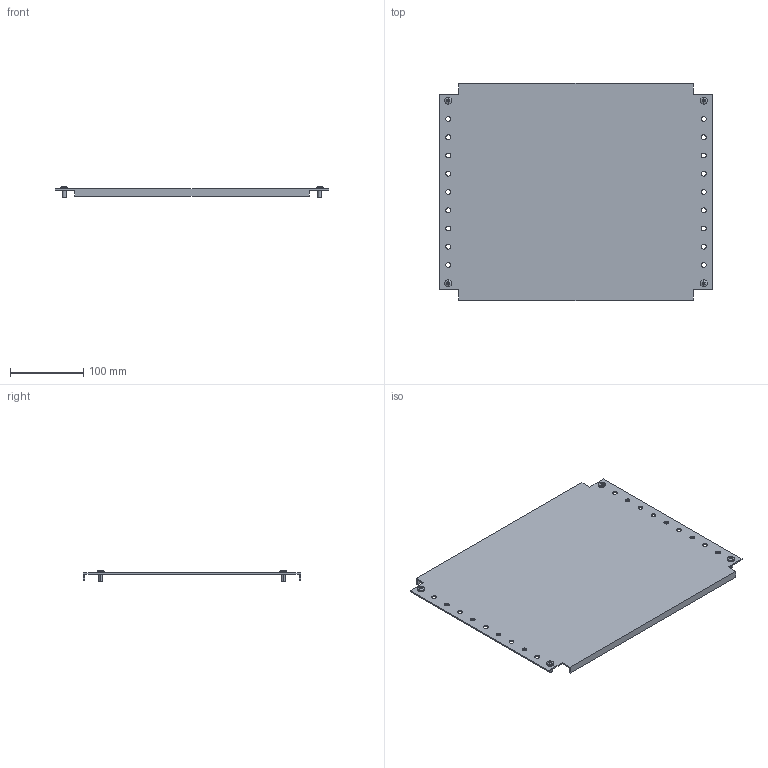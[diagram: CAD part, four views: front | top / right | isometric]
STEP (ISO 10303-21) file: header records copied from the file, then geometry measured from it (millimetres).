
FILE_DESCRIPTION (( 'STEP AP203' ), '1' );
FILE_NAME ('R6MPP03450.STEP', '2025-05-16T08:11:22', ( '' ), ( '' ), 'SwSTEP 2.0', 'SolidWorks 2022', '' );
FILE_SCHEMA (( 'CONFIG_CONTROL_DESIGN' ));
Length unit declared in the file: millimetre
Products named in the file (3): R6MPP03450; M5x12 DIN 7500 C Torx Zinc_stright; RB.3313.00.00.0 simple_-06
Assembly tree (5 placements, depth 2):
  R6MPP03450
    RB.3313.00.00.0 simple_-06
    M5x12 DIN 7500 C Torx Zinc_stright  x4
Bounding box: 375 x 298 x 15.56 mm (x, y, z)
Volume: 208074 mm3; surface area: 234319.6 mm2
Topology: 5 solids, 5 shells, 166 faces, 404 edges, 244 vertices
Faces by surface type: cylinder 60, plane 58, cone 16, torus 16, bspline 8, sphere 8
Entity records: 3647 total; most frequent: CARTESIAN_POINT 729, DIRECTION 558, ORIENTED_EDGE 504, EDGE_CURVE 252, AXIS2_PLACEMENT_3D 216, VERTEX_POINT 163, EDGE_LOOP 139, VECTOR 126
